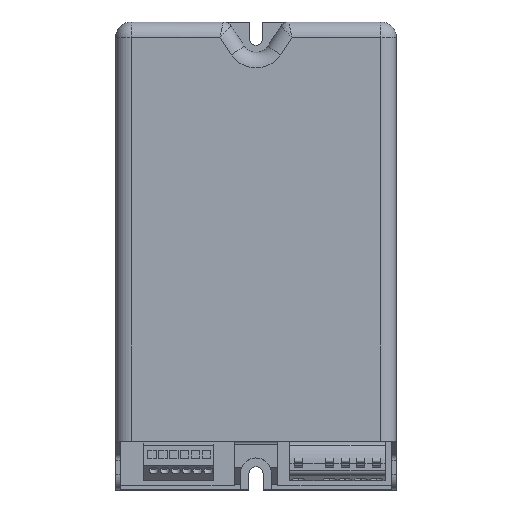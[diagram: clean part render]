
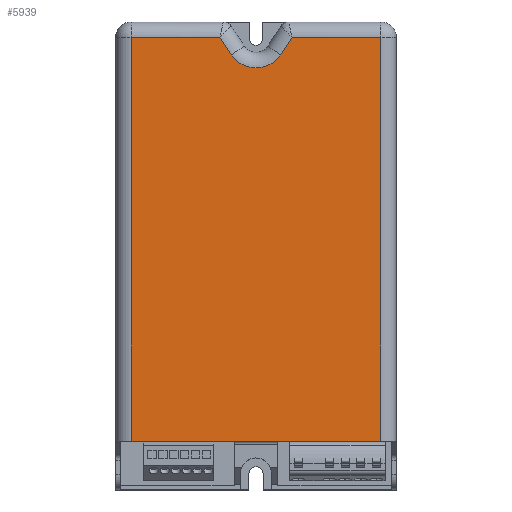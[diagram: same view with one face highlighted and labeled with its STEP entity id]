
A CAD part, top view. The second image highlights one B-rep face of the part: STEP entity #5939.
In plain terms, the highlighted planar face has unit normal (0, 0, 1).
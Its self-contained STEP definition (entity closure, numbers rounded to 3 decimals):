
#132=DIRECTION('',(0.,-1.,0.));
#133=VECTOR('',#132,129.4);
#134=CARTESIAN_POINT('',(40.,139.75,40.));
#135=LINE('',#134,#133);
#139=DIRECTION('',(1.,0.,0.));
#140=VECTOR('',#139,80.);
#141=CARTESIAN_POINT('',(-40.,10.35,40.));
#142=LINE('',#141,#140);
#146=DIRECTION('',(0.,1.,0.));
#147=VECTOR('',#146,129.4);
#148=CARTESIAN_POINT('',(-40.,10.35,40.));
#149=LINE('',#148,#147);
#153=DIRECTION('',(-1.,0.,0.));
#154=VECTOR('',#153,28.422);
#155=CARTESIAN_POINT('',(-11.578,139.75,40.));
#156=LINE('',#155,#154);
#160=DIRECTION('',(-0.554,0.832,0.));
#161=VECTOR('',#160,6.623);
#162=CARTESIAN_POINT('',(-7.908,134.236,40.));
#163=LINE('',#162,#161);
#167=CARTESIAN_POINT('',(0.,139.5,40.));
#168=DIRECTION('',(0.,0.,-1.));
#169=DIRECTION('',(0.832,-0.554,0.));
#170=AXIS2_PLACEMENT_3D('',#167,#168,#169);
#175=DIRECTION('',(-0.554,-0.832,0.));
#176=VECTOR('',#175,6.623);
#177=CARTESIAN_POINT('',(11.578,139.75,40.));
#178=LINE('',#177,#176);
#182=DIRECTION('',(-1.,0.,0.));
#183=VECTOR('',#182,28.422);
#184=CARTESIAN_POINT('',(40.,139.75,40.));
#185=LINE('',#184,#183);
#5171=CARTESIAN_POINT('',(40.,10.35,40.));
#5173=VERTEX_POINT('',#5171);
#5174=CARTESIAN_POINT('',(40.,139.75,40.));
#5175=VERTEX_POINT('',#5174);
#5178=CARTESIAN_POINT('',(-40.,10.35,40.));
#5179=CARTESIAN_POINT('',(-40.,139.75,40.));
#5180=VERTEX_POINT('',#5178);
#5181=VERTEX_POINT('',#5179);
#5190=CARTESIAN_POINT('',(11.578,139.75,40.));
#5191=VERTEX_POINT('',#5190);
#5202=CARTESIAN_POINT('',(-11.578,139.75,40.));
#5203=VERTEX_POINT('',#5202);
#5212=CARTESIAN_POINT('',(7.908,134.236,40.));
#5213=VERTEX_POINT('',#5212);
#5218=CARTESIAN_POINT('',(-7.908,134.236,40.));
#5219=VERTEX_POINT('',#5218);
#5917=CARTESIAN_POINT('',(-45.,144.75,40.));
#5918=DIRECTION('',(0.,0.,1.));
#5919=DIRECTION('',(0.,-1.,0.));
#5920=AXIS2_PLACEMENT_3D('',#5917,#5918,#5919);
#5921=PLANE('',#5920);
#5923=ORIENTED_EDGE('',*,*,#5922,.T.);
#5925=ORIENTED_EDGE('',*,*,#5924,.F.);
#5926=ORIENTED_EDGE('',*,*,#5907,.T.);
#5928=ORIENTED_EDGE('',*,*,#5927,.F.);
#5930=ORIENTED_EDGE('',*,*,#5929,.F.);
#5932=ORIENTED_EDGE('',*,*,#5931,.F.);
#5934=ORIENTED_EDGE('',*,*,#5933,.F.);
#5936=ORIENTED_EDGE('',*,*,#5935,.F.);
#5937=EDGE_LOOP('',(#5923,#5925,#5926,#5928,#5930,#5932,#5934,#5936));
#5938=FACE_OUTER_BOUND('',#5937,.F.);
#171=CIRCLE('',#170,9.5);
#5907=EDGE_CURVE('',#5180,#5181,#149,.T.);
#5922=EDGE_CURVE('',#5175,#5173,#135,.T.);
#5924=EDGE_CURVE('',#5180,#5173,#142,.T.);
#5927=EDGE_CURVE('',#5203,#5181,#156,.T.);
#5929=EDGE_CURVE('',#5219,#5203,#163,.T.);
#5931=EDGE_CURVE('',#5213,#5219,#171,.T.);
#5933=EDGE_CURVE('',#5191,#5213,#178,.T.);
#5935=EDGE_CURVE('',#5175,#5191,#185,.T.);
#5939=ADVANCED_FACE('',(#5938),#5921,.T.);
